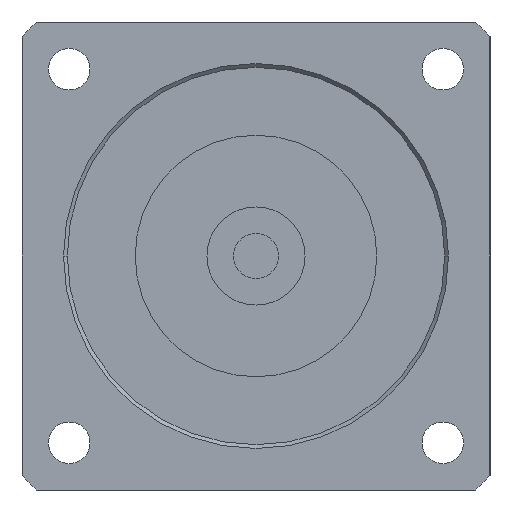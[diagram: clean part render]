
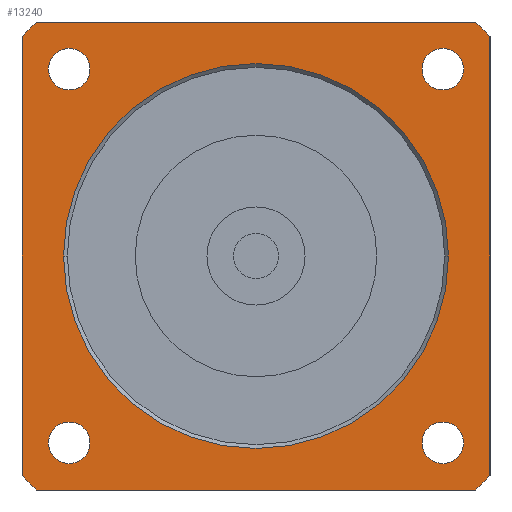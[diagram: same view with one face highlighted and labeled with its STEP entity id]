
A CAD part, left-side view. The second image highlights one B-rep face of the part: STEP entity #13240.
In plain terms, the highlighted planar face has unit normal (-1, 0, 0) as drawn and (0, 0, -1) by its records, which use the part's own axes.
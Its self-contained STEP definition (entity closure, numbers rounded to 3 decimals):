
#8680=CARTESIAN_POINT('',(-24.749,21.999,-40.5));
#8690=VERTEX_POINT('',#8680);
#8870=CARTESIAN_POINT('',(-24.749,27.499,-40.5));
#8880=VERTEX_POINT('',#8870);
#8910=CARTESIAN_POINT('',(-24.749,24.749,-40.5));
#8920=DIRECTION('',(0.,0.,1.));
#8930=DIRECTION('',(0.,-1.,0.));
#8940=AXIS2_PLACEMENT_3D('',#8910,#8920,#8930);
#8950=CIRCLE('',#8940,2.75);
#8960=EDGE_CURVE('',#8880,#8690,#8950,.T.);
#9100=CARTESIAN_POINT('',(24.749,-21.999,-40.5));
#9110=VERTEX_POINT('',#9100);
#9290=CARTESIAN_POINT('',(24.749,-27.499,-40.5));
#9300=VERTEX_POINT('',#9290);
#9330=CARTESIAN_POINT('',(24.749,-24.749,-40.5));
#9340=DIRECTION('',(0.,0.,1.));
#9350=DIRECTION('',(0.,1.,0.));
#9360=AXIS2_PLACEMENT_3D('',#9330,#9340,#9350);
#9370=CIRCLE('',#9360,2.75);
#9380=EDGE_CURVE('',#9300,#9110,#9370,.T.);
#11720=CARTESIAN_POINT('',(-25.5,0.,-40.5));
#11730=VERTEX_POINT('',#11720);
#11760=CARTESIAN_POINT('',(0.,0.,
-40.5));
#11770=DIRECTION('',(0.,0.,-1.));
#11780=DIRECTION('',(0.,-1.,0.));
#11790=AXIS2_PLACEMENT_3D('',#11760,#11770,#11780);
#11800=CIRCLE('',#11790,25.5);
#11810=CARTESIAN_POINT('',(0.,-25.5,-40.5));
#11820=VERTEX_POINT('',#11810);
#11830=EDGE_CURVE('',#11820,#11730,#11800,.T.);
#11850=CARTESIAN_POINT('',(25.5,0.,-40.5));
#11860=VERTEX_POINT('',#11850);
#11870=EDGE_CURVE('',#11860,#11820,#11800,.T.);
#11990=CARTESIAN_POINT('',(0.,-42.5,-40.5));
#12000=DIRECTION('',(0.,0.,-1.));
#12010=DIRECTION('',(0.,-1.,0.));
#12020=AXIS2_PLACEMENT_3D('',#11990,#12000,#12010);
#12030=PLANE('',#12020);
#12040=ORIENTED_EDGE('',*,*,#11830,.F.);
#12050=EDGE_CURVE('',#11730,#11860,#11800,.T.);
#12060=ORIENTED_EDGE('',*,*,#12050,.F.);
#12070=ORIENTED_EDGE('',*,*,#11870,.F.);
#12080=EDGE_LOOP('',(#12070,#12060,#12040));
#12090=FACE_BOUND('',#12080,.T.);
#12100=CARTESIAN_POINT('',(24.749,24.749,-40.5));
#12110=DIRECTION('',(0.,0.,1.));
#12120=DIRECTION('',(-1.,0.,0.));
#12130=AXIS2_PLACEMENT_3D('',#12100,#12110,#12120);
#12140=CIRCLE('',#12130,2.75);
#12150=CARTESIAN_POINT('',(21.999,24.749,-40.5));
#12160=VERTEX_POINT('',#12150);
#12170=CARTESIAN_POINT('',(27.499,24.749,-40.5));
#12180=VERTEX_POINT('',#12170);
#12190=EDGE_CURVE('',#12160,#12180,#12140,.T.);
#12200=ORIENTED_EDGE('',*,*,#12190,.T.);
#12210=EDGE_CURVE('',#12180,#12160,#12140,.T.);
#12220=ORIENTED_EDGE('',*,*,#12210,.T.);
#12230=EDGE_LOOP('',(#12220,#12200));
#12240=FACE_BOUND('',#12230,.T.);
#12250=CARTESIAN_POINT('',(-24.749,-24.749,-40.5));
#12260=DIRECTION('',(0.,0.,1.));
#12270=DIRECTION('',(1.,0.,0.));
#12280=AXIS2_PLACEMENT_3D('',#12250,#12260,#12270);
#12290=CIRCLE('',#12280,2.75);
#12300=CARTESIAN_POINT('',(-24.749,-21.999,-40.5));
#12310=VERTEX_POINT('',#12300);
#12320=CARTESIAN_POINT('',(-24.749,-27.499,-40.5));
#12330=VERTEX_POINT('',#12320);
#12340=EDGE_CURVE('',#12310,#12330,#12290,.T.);
#12350=ORIENTED_EDGE('',*,*,#12340,.T.);
#12360=CARTESIAN_POINT('',(-21.999,-24.749,-40.5));
#12370=VERTEX_POINT('',#12360);
#12380=EDGE_CURVE('',#12370,#12310,#12290,.T.);
#12390=ORIENTED_EDGE('',*,*,#12380,.T.);
#12400=EDGE_CURVE('',#12330,#12370,#12290,.T.);
#12410=ORIENTED_EDGE('',*,*,#12400,.T.);
#12420=EDGE_LOOP('',(#12410,#12390,#12350));
#12430=FACE_BOUND('',#12420,.T.);
#12440=CARTESIAN_POINT('',(-31.,-42.5,-40.5));
#12450=DIRECTION('',(0.,1.,0.));
#12460=VECTOR('',#12450,1000.);
#12470=LINE('',#12440,#12460);
#12480=CARTESIAN_POINT('',(-31.,-29.073,-40.5));
#12490=VERTEX_POINT('',#12480);
#12500=CARTESIAN_POINT('',(-31.,29.073,-40.5));
#12510=VERTEX_POINT('',#12500);
#12520=EDGE_CURVE('',#12490,#12510,#12470,.T.);
#12530=ORIENTED_EDGE('',*,*,#12520,.T.);
#12540=CARTESIAN_POINT('',(0.,0.,
-40.5));
#12550=DIRECTION('',(0.,0.,1.));
#12560=DIRECTION('',(0.,1.,0.));
#12570=AXIS2_PLACEMENT_3D('',#12540,#12550,#12560);
#12580=CIRCLE('',#12570,42.5);
#12590=CARTESIAN_POINT('',(-29.073,-31.,-40.5));
#12600=VERTEX_POINT('',#12590);
#12610=EDGE_CURVE('',#12490,#12600,#12580,.T.);
#12620=ORIENTED_EDGE('',*,*,#12610,.F.);
#12630=CARTESIAN_POINT('',(0.,-31.,-40.5));
#12640=DIRECTION('',(-1.,0.,0.));
#12650=VECTOR('',#12640,1000.);
#12660=LINE('',#12630,#12650);
#12670=CARTESIAN_POINT('',(29.073,-31.,-40.5));
#12680=VERTEX_POINT('',#12670);
#12690=EDGE_CURVE('',#12680,#12600,#12660,.T.);
#12700=ORIENTED_EDGE('',*,*,#12690,.T.);
#12710=CARTESIAN_POINT('',(0.,0.,
-40.5));
#12720=DIRECTION('',(0.,0.,1.));
#12730=DIRECTION('',(0.,1.,0.));
#12740=AXIS2_PLACEMENT_3D('',#12710,#12720,#12730);
#12750=CIRCLE('',#12740,42.5);
#12760=CARTESIAN_POINT('',(31.,-29.073,-40.5));
#12770=VERTEX_POINT('',#12760);
#12780=EDGE_CURVE('',#12680,#12770,#12750,.T.);
#12790=ORIENTED_EDGE('',*,*,#12780,.F.);
#12800=CARTESIAN_POINT('',(31.,-42.5,-40.5));
#12810=DIRECTION('',(0.,-1.,0.));
#12820=VECTOR('',#12810,1000.);
#12830=LINE('',#12800,#12820);
#12840=CARTESIAN_POINT('',(31.,29.073,-40.5));
#12850=VERTEX_POINT('',#12840);
#12860=EDGE_CURVE('',#12850,#12770,#12830,.T.);
#12870=ORIENTED_EDGE('',*,*,#12860,.T.);
#12880=CARTESIAN_POINT('',(0.,0.,
-40.5));
#12890=DIRECTION('',(0.,0.,1.));
#12900=DIRECTION('',(0.,1.,0.));
#12910=AXIS2_PLACEMENT_3D('',#12880,#12890,#12900);
#12920=CIRCLE('',#12910,42.5);
#12930=CARTESIAN_POINT('',(29.073,31.,-40.5));
#12940=VERTEX_POINT('',#12930);
#12950=EDGE_CURVE('',#12850,#12940,#12920,.T.);
#12960=ORIENTED_EDGE('',*,*,#12950,.F.);
#12970=CARTESIAN_POINT('',(0.,31.,-40.5));
#12980=DIRECTION('',(1.,0.,0.));
#12990=VECTOR('',#12980,1000.);
#13000=LINE('',#12970,#12990);
#13010=CARTESIAN_POINT('',(-29.073,31.,-40.5));
#13020=VERTEX_POINT('',#13010);
#13030=EDGE_CURVE('',#13020,#12940,#13000,.T.);
#13040=ORIENTED_EDGE('',*,*,#13030,.T.);
#13050=CARTESIAN_POINT('',(0.,0.,
-40.5));
#13060=DIRECTION('',(0.,0.,1.));
#13070=DIRECTION('',(0.,1.,0.));
#13080=AXIS2_PLACEMENT_3D('',#13050,#13060,#13070);
#13090=CIRCLE('',#13080,42.5);
#13100=EDGE_CURVE('',#13020,#12510,#13090,.T.);
#13110=ORIENTED_EDGE('',*,*,#13100,.F.);
#13120=EDGE_LOOP('',(#13110,#13040,#12960,#12870,#12790,#12700,#12620,
#12530));
#13130=FACE_OUTER_BOUND('',#13120,.T.);
#13140=EDGE_CURVE('',#8690,#8880,#8950,.T.);
#13150=ORIENTED_EDGE('',*,*,#13140,.T.);
#13160=ORIENTED_EDGE('',*,*,#8960,.T.);
#13170=EDGE_LOOP('',(#13160,#13150));
#13180=FACE_BOUND('',#13170,.T.);
#13190=EDGE_CURVE('',#9110,#9300,#9370,.T.);
#13200=ORIENTED_EDGE('',*,*,#13190,.T.);
#13210=ORIENTED_EDGE('',*,*,#9380,.T.);
#13220=EDGE_LOOP('',(#13210,#13200));
#13230=FACE_BOUND('',#13220,.T.);
#13240=ADVANCED_FACE('',(#12090,#12240,#12430,#13130,#13180,#13230),
#12030,.T.);
